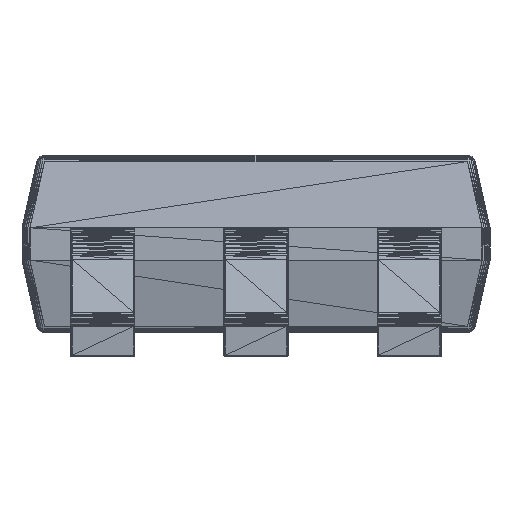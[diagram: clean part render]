
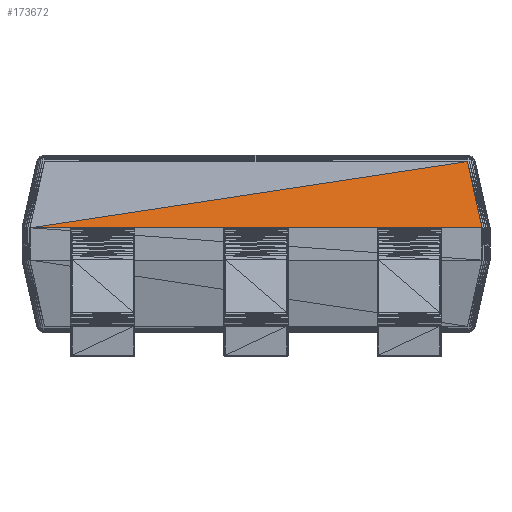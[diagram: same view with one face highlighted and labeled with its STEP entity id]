
A CAD part, left-side view. The second image highlights one B-rep face of the part: STEP entity #173672.
In plain terms, the highlighted planar face has unit normal (-0.976, 0, 0.217).
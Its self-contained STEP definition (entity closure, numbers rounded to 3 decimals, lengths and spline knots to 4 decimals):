
#10019=DIRECTION('',(0.0,1.0,0.0));
#10020=VECTOR('',#10019,1000.0);
#164419=CARTESIAN_POINT('',(-0.8,1.4,0.75));
#164420=VERTEX_POINT('',#164419);
#164421=CARTESIAN_POINT('',(-0.8,-1.4,0.75));
#164422=VERTEX_POINT('',#164421);
#164473=CARTESIAN_POINT('',(-0.7087,-1.3099,1.1608));
#164474=VERTEX_POINT('',#164473);
#173267=LINE('',#164421,#10020);
#173268=EDGE_CURVE('',#164422,#164420,#173267,.T.);
#173417=DIRECTION('',(0.212,0.209,0.955));
#173424=DIRECTION('',(-0.033,0.988,-0.15));
#173442=DIRECTION('',(-0.212,-0.209,-0.955));
#173649=VECTOR('',#173442,1000.0);
#173650=LINE('',#164473,#173649);
#173651=EDGE_CURVE('',#164474,#164422,#173650,.T.);
#173661=VECTOR('',#173424,1000.0);
#173662=LINE('',#164473,#173661);
#173663=EDGE_CURVE('',#164474,#164420,#173662,.T.);
#173664=ORIENTED_EDGE('',*,*,#173651,.F.);
#173665=ORIENTED_EDGE('',*,*,#173663,.T.);
#173666=ORIENTED_EDGE('',*,*,#173268,.F.);
#173667=DIRECTION('',(-0.976,0.0,0.217));
#173668=AXIS2_PLACEMENT_3D('',#164421,#173667,#173417);
#173669=PLANE('',#173668);
#173670=EDGE_LOOP('',(#173664,#173665,#173666));
#173671=FACE_BOUND('',#173670,.T.);
#173672=ADVANCED_FACE('',(#173671),#173669,.T.);
